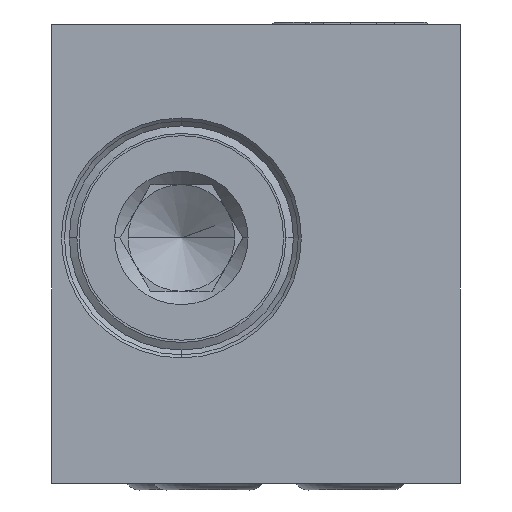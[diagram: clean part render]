
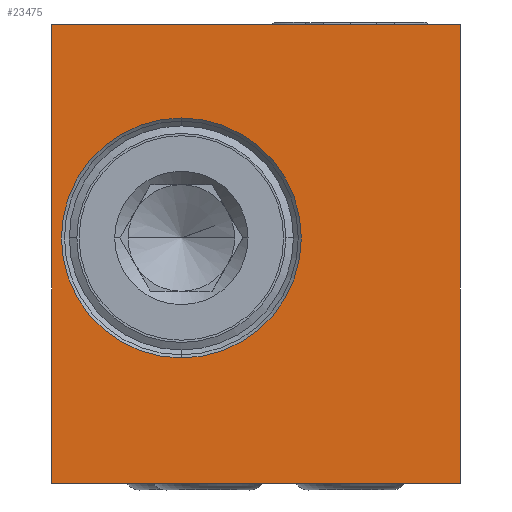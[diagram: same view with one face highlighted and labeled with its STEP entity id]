
A CAD part, left-side view. The second image highlights one B-rep face of the part: STEP entity #23475.
In plain terms, the highlighted planar face has unit normal (-1, 0, 0).
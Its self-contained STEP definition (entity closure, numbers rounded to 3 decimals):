
#4377=DIRECTION('',(0.,0.,1.));
#4378=VECTOR('',#4377,25.8);
#4379=CARTESIAN_POINT('',(-38.,11.5,-12.9));
#4380=LINE('',#4379,#4378);
#4381=DIRECTION('',(0.,-1.,0.));
#4382=VECTOR('',#4381,23.);
#4383=CARTESIAN_POINT('',(-38.,11.5,12.9));
#4384=LINE('',#4383,#4382);
#4385=DIRECTION('',(0.,0.,-1.));
#4386=VECTOR('',#4385,25.8);
#4387=CARTESIAN_POINT('',(-38.,-11.5,12.9));
#4388=LINE('',#4387,#4386);
#4389=DIRECTION('',(0.,1.,0.));
#4390=VECTOR('',#4389,23.);
#4391=CARTESIAN_POINT('',(-38.,-11.5,-12.9));
#4392=LINE('',#4391,#4390);
#4393=CARTESIAN_POINT('',(-38.,4.2,0.9));
#4394=DIRECTION('',(-1.,0.,0.));
#4395=DIRECTION('',(0.,0.,-1.));
#4396=AXIS2_PLACEMENT_3D('',#4393,#4394,#4395);
#4398=CARTESIAN_POINT('',(-38.,4.2,0.9));
#4399=DIRECTION('',(-1.,0.,0.));
#4400=DIRECTION('',(0.,0.,1.));
#4401=AXIS2_PLACEMENT_3D('',#4398,#4399,#4400);
#16039=CARTESIAN_POINT('',(-38.,11.5,12.9));
#16040=VERTEX_POINT('',#16039);
#16041=CARTESIAN_POINT('',(-38.,11.5,-12.9));
#16042=VERTEX_POINT('',#16041);
#16043=CARTESIAN_POINT('',(-38.,-11.5,12.9));
#16044=VERTEX_POINT('',#16043);
#16065=CARTESIAN_POINT('',(-38.,-11.5,-12.9));
#16066=VERTEX_POINT('',#16065);
#16111=CARTESIAN_POINT('',(-38.,4.2,-5.85));
#16112=CARTESIAN_POINT('',(-38.,4.2,7.65));
#16113=VERTEX_POINT('',#16111);
#16114=VERTEX_POINT('',#16112);
#23456=CARTESIAN_POINT('',(-38.,0.,0.));
#23457=DIRECTION('',(-1.,0.,0.));
#23458=DIRECTION('',(0.,-1.,0.));
#23459=AXIS2_PLACEMENT_3D('',#23456,#23457,#23458);
#23460=PLANE('',#23459);
#23461=ORIENTED_EDGE('',*,*,#23449,.T.);
#23462=ORIENTED_EDGE('',*,*,#21043,.T.);
#23464=ORIENTED_EDGE('',*,*,#23463,.T.);
#23466=ORIENTED_EDGE('',*,*,#23465,.T.);
#23467=EDGE_LOOP('',(#23461,#23462,#23464,#23466));
#23468=FACE_OUTER_BOUND('',#23467,.F.);
#23470=ORIENTED_EDGE('',*,*,#23469,.T.);
#23472=ORIENTED_EDGE('',*,*,#23471,.T.);
#23473=EDGE_LOOP('',(#23470,#23472));
#23474=FACE_BOUND('',#23473,.F.);
#23475=ADVANCED_FACE('',(#23468,#23474),#23460,.T.);
#4397=CIRCLE('',#4396,6.75);
#4402=CIRCLE('',#4401,6.75);
#21043=EDGE_CURVE('',#16040,#16044,#4384,.T.);
#23449=EDGE_CURVE('',#16042,#16040,#4380,.T.);
#23463=EDGE_CURVE('',#16044,#16066,#4388,.T.);
#23465=EDGE_CURVE('',#16066,#16042,#4392,.T.);
#23469=EDGE_CURVE('',#16113,#16114,#4397,.T.);
#23471=EDGE_CURVE('',#16114,#16113,#4402,.T.);
